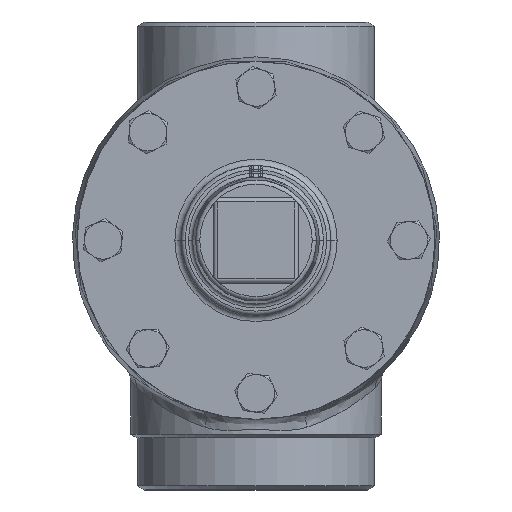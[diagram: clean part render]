
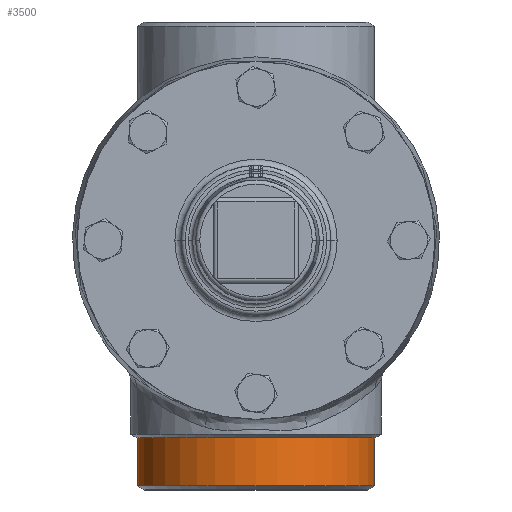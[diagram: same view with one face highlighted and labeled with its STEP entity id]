
A CAD part, front view. The second image highlights one B-rep face of the part: STEP entity #3500.
In plain terms, the highlighted cylindrical face has radius 57.15 mm (diameter 114.3 mm), a partial arc.
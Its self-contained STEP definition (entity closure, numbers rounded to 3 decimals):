
#1855 = VERTEX_POINT ( 'NONE', #30435 ) ;
#19153 = LINE ( 'NONE', #19154, #19155 ) ;
#19154 = CARTESIAN_POINT ( 'NONE',  ( -57.15, -73., -95. ) ) ;
#19155 = VECTOR ( 'NONE', #19156, 1000. ) ;
#19156 = DIRECTION ( 'NONE',  ( 0., 0., -1. ) ) ;
#3500 = ADVANCED_FACE ( 'NONE', ( #7027 ), #7028, .T. ) ;
#20975 = CARTESIAN_POINT ( 'NONE',  ( 57.15, -73., -95. ) ) ;
#22981 = VERTEX_POINT ( 'NONE', #8880 ) ;
#23027 = CARTESIAN_POINT ( 'NONE',  ( -57.15, -73., -95. ) ) ;
#23244 = CIRCLE ( 'NONE', #23245, 57.15 ) ;
#23245 = AXIS2_PLACEMENT_3D ( 'NONE', #23246, #23247, #23248 ) ;
#23246 = CARTESIAN_POINT ( 'NONE',  ( 0., -73., -118.037 ) ) ;
#23247 = DIRECTION ( 'NONE',  ( 0., 0., 1. ) ) ;
#23248 = DIRECTION ( 'NONE',  ( 1., 0., 0. ) ) ;
#7027 = FACE_OUTER_BOUND ( 'NONE', #28723, .T. ) ;
#7028 = CYLINDRICAL_SURFACE ( 'NONE', #7029, 57.15 ) ;
#7029 = AXIS2_PLACEMENT_3D ( 'NONE', #7030, #7031, #7032 ) ;
#7030 = CARTESIAN_POINT ( 'NONE',  ( 0., -73., -95. ) ) ;
#7031 = DIRECTION ( 'NONE',  ( 0., 0., -1. ) ) ;
#7032 = DIRECTION ( 'NONE',  ( -1., 0., 0. ) ) ;
#23420 = CIRCLE ( 'NONE', #23421, 57.15 ) ;
#23421 = AXIS2_PLACEMENT_3D ( 'NONE', #23422, #23423, #23440 ) ;
#23422 = CARTESIAN_POINT ( 'NONE',  ( 0., -73., -95. ) ) ;
#23423 = DIRECTION ( 'NONE',  ( 0., 0., -1. ) ) ;
#23440 = DIRECTION ( 'NONE',  ( -1., 0., 0. ) ) ;
#25179 = EDGE_CURVE ( 'NONE', #25961, #1855, #19153, .T. ) ;
#8880 = CARTESIAN_POINT ( 'NONE',  ( 57.15, -73., -118.037 ) ) ;
#25565 = ORIENTED_EDGE ( 'NONE', *, *, #25179, .F. ) ;
#25737 = VERTEX_POINT ( 'NONE', #20975 ) ;
#25961 = VERTEX_POINT ( 'NONE', #23027 ) ;
#26095 = EDGE_CURVE ( 'NONE', #22981, #1855, #23244, .T. ) ;
#26100 = LINE ( 'NONE', #26101, #26102 ) ;
#26101 = CARTESIAN_POINT ( 'NONE',  ( 57.15, -73., -95. ) ) ;
#26102 = VECTOR ( 'NONE', #26103, 1000. ) ;
#26103 = DIRECTION ( 'NONE',  ( 0., 0., -1. ) ) ;
#26192 = EDGE_CURVE ( 'NONE', #25961, #25737, #23420, .T. ) ;
#26472 = ORIENTED_EDGE ( 'NONE', *, *, #26095, .T. ) ;
#27003 = EDGE_CURVE ( 'NONE', #25737, #22981, #26100, .T. ) ;
#27399 = ORIENTED_EDGE ( 'NONE', *, *, #27003, .T. ) ;
#27932 = ORIENTED_EDGE ( 'NONE', *, *, #26192, .T. ) ;
#28723 = EDGE_LOOP ( 'NONE', ( #27932, #27399, #26472, #25565 ) ) ;
#30435 = CARTESIAN_POINT ( 'NONE',  ( -57.15, -73., -118.037 ) ) ;
